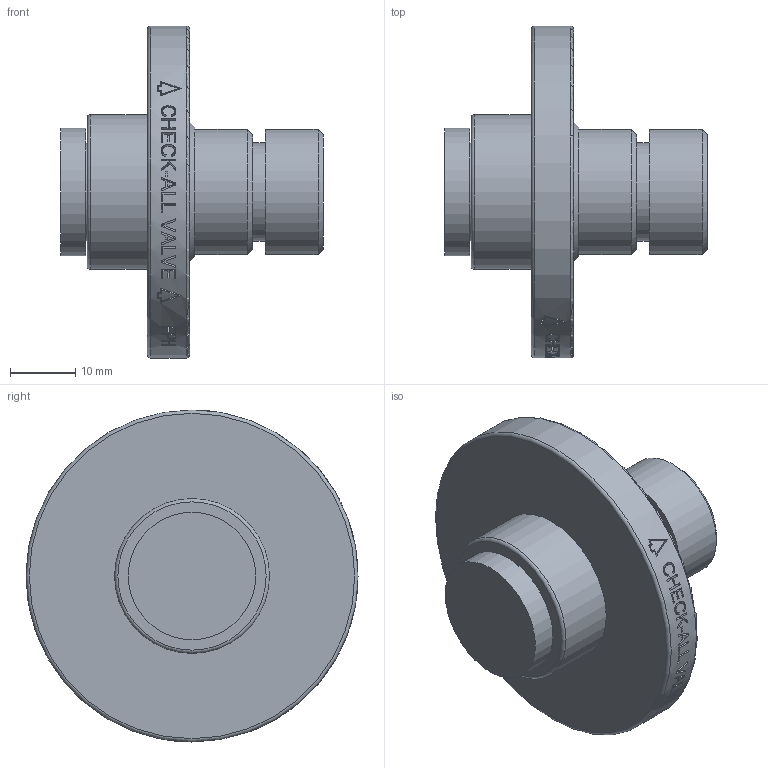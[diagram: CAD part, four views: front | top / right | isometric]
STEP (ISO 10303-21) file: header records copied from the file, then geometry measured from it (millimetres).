
FILE_DESCRIPTION( ( 'Unknown' ), '1' );
FILE_NAME( 'Y:/ENGR/Catalog & Web/3D Models for Web/FP/STEP/FPH.stp', 'Unknown', ( 'Unknown' ), ( 'Unknown' ), 'PSStep 14.0', 'Unknown', ' ' );
FILE_SCHEMA( ( 'AUTOMOTIVE_DESIGN { 1 0 10303 214 1 1 1 1 }' ) );
Length unit declared in the file: millimetre
Products named in the file (1): 1
Bounding box: 40.26 x 50.93 x 50.93 mm (x, y, z)
Volume: 24115.7 mm3; surface area: 7857.2 mm2
Topology: 1 solids, 1 shells, 216 faces, 550 edges, 365 vertices
Faces by surface type: plane 136, bspline 41, cylinder 29, cone 4, torus 3, extrusion 2, revolution 1
Full cylindrical faces by diameter (mm): 15.062 x2, 19.177 x2, 19.558 x1, 23.749 x1, 50.927 x1
Entity records: 10657 total; most frequent: CARTESIAN_POINT 3148, ORIENTED_EDGE 1066, DIRECTION 893, EDGE_CURVE 533, PRESENTATION_STYLE_ASSIGNMENT 433, COLOUR_RGB 433, VERTEX_POINT 363, AXIS2_PLACEMENT_3D 340
